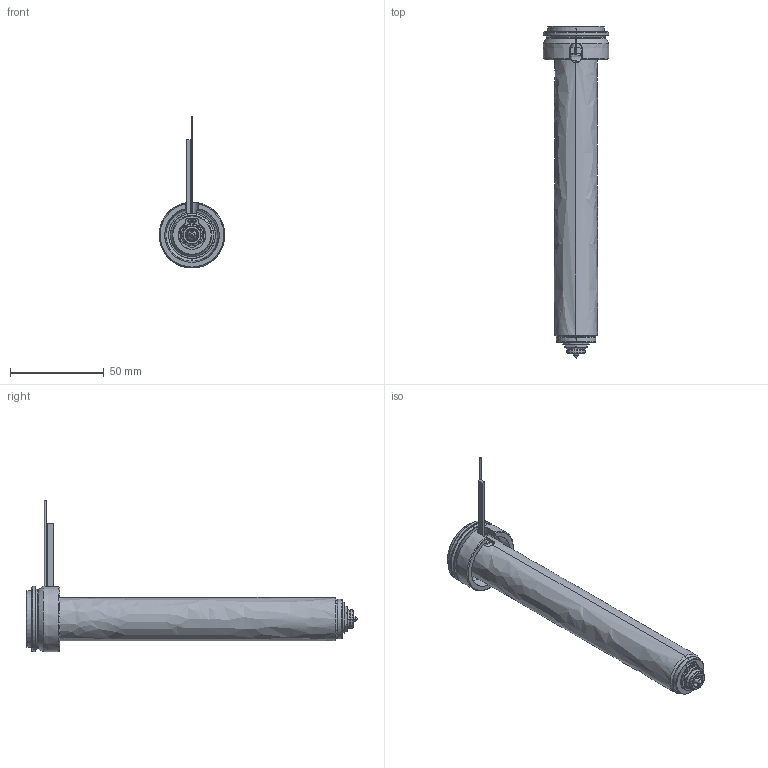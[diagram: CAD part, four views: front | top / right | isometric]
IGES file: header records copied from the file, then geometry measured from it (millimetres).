
Start section: SolidWorks IGES file using analytic representation for surfaces
Global section: file name: C:\Documents and Settings\ws-20\Desktop\TEM\UGEP3054-M-A-0 [Øf-0.90 ØC-6.0].IGS; native system: SolidWorks 2012; preprocessor: SolidWorks 2012; author: ws-20; date: 120402.112915; units: millimetre
Bounding box: 35 x 176.8 x 80.9 mm (x, y, z)
Surface area: 25230.4 mm2 (no closed solid volume)
Topology: 0 solids, 0 shells, 127 faces, 1771 edges, 1771 vertices
Faces by surface type: revolution 79, bspline 48
